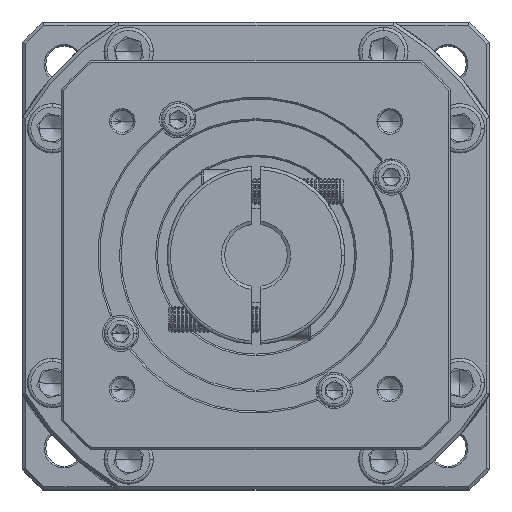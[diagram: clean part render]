
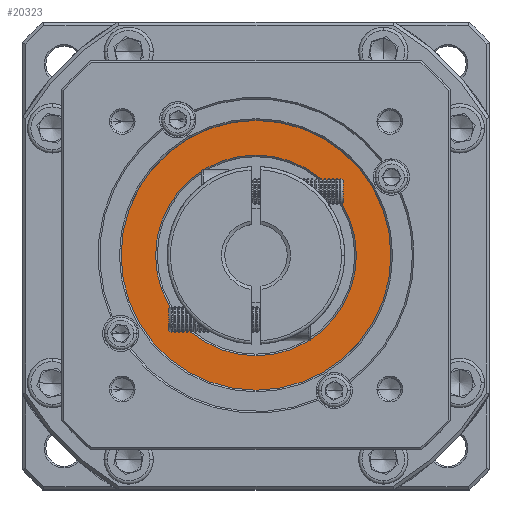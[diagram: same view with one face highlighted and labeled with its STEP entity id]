
A CAD part, top view. The second image highlights one B-rep face of the part: STEP entity #20323.
In plain terms, the highlighted planar face has unit normal (0, 0, 1).
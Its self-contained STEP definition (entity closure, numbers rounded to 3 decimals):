
#914 = PLANE ( 'NONE',  #15541 ) ;
#3758 = VERTEX_POINT ( 'NONE', #110658 ) ;
#3906 = DIRECTION ( 'NONE',  ( 0., -1., 0. ) ) ;
#5128 = CARTESIAN_POINT ( 'NONE',  ( -118.929, 0.22, -2.092 ) ) ;
#6964 = DIRECTION ( 'NONE',  ( 1., 0., 0. ) ) ;
#15541 = AXIS2_PLACEMENT_3D ( 'NONE', #28696, #76056, #48624 ) ;
#15688 = CARTESIAN_POINT ( 'NONE',  ( -118.929, 30.72, -2.092 ) ) ;
#16454 = EDGE_LOOP ( 'NONE', ( #52506, #71475 ) ) ;
#17712 = AXIS2_PLACEMENT_3D ( 'NONE', #15688, #35633, #6964 ) ;
#20323 = ADVANCED_FACE ( 'NONE', ( #55596, #109234 ), #914, .T. ) ;
#22214 = CIRCLE ( 'NONE', #62496, 30.5 ) ;
#25480 = EDGE_CURVE ( 'NONE', #3758, #70260, #31835, .T. ) ;
#28034 = CARTESIAN_POINT ( 'NONE',  ( -118.929, 30.72, -2.092 ) ) ;
#28696 = CARTESIAN_POINT ( 'NONE',  ( -118.929, 30.72, -2.092 ) ) ;
#31835 = CIRCLE ( 'NONE', #17712, 41. ) ;
#35633 = DIRECTION ( 'NONE',  ( 0., 0., 1. ) ) ;
#35965 = DIRECTION ( 'NONE',  ( 1., 0., 0. ) ) ;
#36509 = EDGE_LOOP ( 'NONE', ( #40850, #61740 ) ) ;
#39881 = EDGE_CURVE ( 'NONE', #67043, #115900, #22214, .T. ) ;
#39927 = DIRECTION ( 'NONE',  ( 0., -1., 0. ) ) ;
#40850 = ORIENTED_EDGE ( 'NONE', *, *, #103078, .T. ) ;
#47989 = CARTESIAN_POINT ( 'NONE',  ( -77.929, 30.72, -2.092 ) ) ;
#48624 = DIRECTION ( 'NONE',  ( 1., 0., 0. ) ) ;
#49418 = DIRECTION ( 'NONE',  ( 0., 0., -1. ) ) ;
#50410 = DIRECTION ( 'NONE',  ( 0., 0., -1. ) ) ;
#52506 = ORIENTED_EDGE ( 'NONE', *, *, #39881, .T. ) ;
#55596 = FACE_OUTER_BOUND ( 'NONE', #36509, .T. ) ;
#58129 = AXIS2_PLACEMENT_3D ( 'NONE', #28034, #83304, #35965 ) ;
#59577 = CARTESIAN_POINT ( 'NONE',  ( -118.929, 30.72, -2.092 ) ) ;
#61740 = ORIENTED_EDGE ( 'NONE', *, *, #25480, .T. ) ;
#62496 = AXIS2_PLACEMENT_3D ( 'NONE', #86044, #49418, #39927 ) ;
#64898 = CIRCLE ( 'NONE', #58129, 41. ) ;
#67043 = VERTEX_POINT ( 'NONE', #5128 ) ;
#70260 = VERTEX_POINT ( 'NONE', #47989 ) ;
#71475 = ORIENTED_EDGE ( 'NONE', *, *, #113820, .T. ) ;
#74786 = CIRCLE ( 'NONE', #83438, 30.5 ) ;
#76056 = DIRECTION ( 'NONE',  ( 0., 0., 1. ) ) ;
#83304 = DIRECTION ( 'NONE',  ( 0., 0., 1. ) ) ;
#83438 = AXIS2_PLACEMENT_3D ( 'NONE', #59577, #50410, #3906 ) ;
#86044 = CARTESIAN_POINT ( 'NONE',  ( -118.929, 30.72, -2.092 ) ) ;
#103078 = EDGE_CURVE ( 'NONE', #70260, #3758, #64898, .T. ) ;
#109234 = FACE_BOUND ( 'NONE', #16454, .T. ) ;
#110658 = CARTESIAN_POINT ( 'NONE',  ( -159.929, 30.72, -2.092 ) ) ;
#113820 = EDGE_CURVE ( 'NONE', #115900, #67043, #74786, .T. ) ;
#115900 = VERTEX_POINT ( 'NONE', #121762 ) ;
#121762 = CARTESIAN_POINT ( 'NONE',  ( -118.929, 61.22, -2.092 ) ) ;
